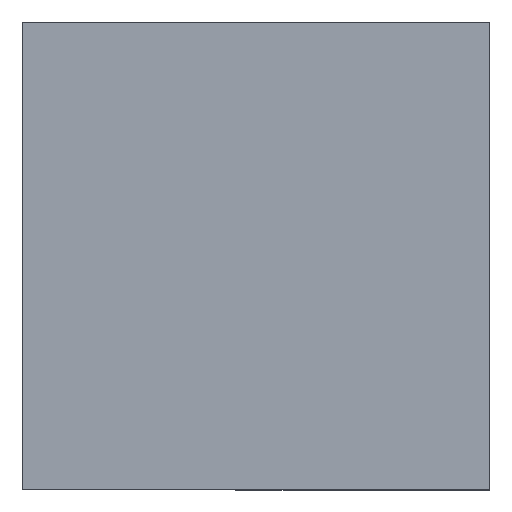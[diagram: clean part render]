
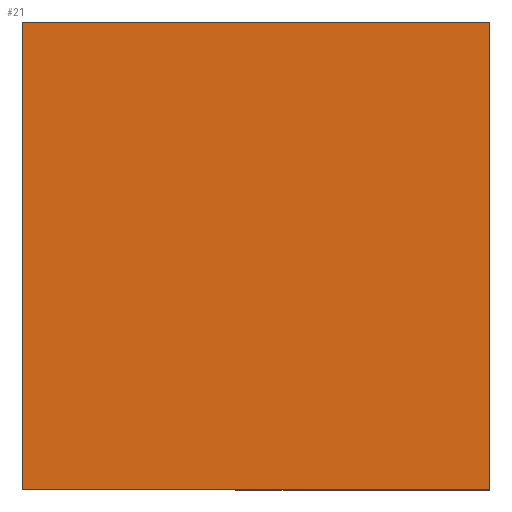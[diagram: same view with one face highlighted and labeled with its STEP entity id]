
A CAD part, top view. The second image highlights one B-rep face of the part: STEP entity #21.
In plain terms, the highlighted planar face has unit normal (0, 0, 1).
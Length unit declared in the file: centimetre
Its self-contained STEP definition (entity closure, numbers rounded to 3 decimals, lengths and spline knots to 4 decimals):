
#8 = LINE ( 'NONE', #134, #266 ) ;
#11 = EDGE_LOOP ( 'NONE', ( #35, #273, #281, #256 ) ) ;
#21 = ADVANCED_FACE ( 'NONE', ( #295 ), #64, .T. ) ;
#35 = ORIENTED_EDGE ( 'NONE', *, *, #296, .T. ) ;
#44 = VECTOR ( 'NONE', #393, 100. ) ;
#49 = CARTESIAN_POINT ( 'NONE',  ( 0., 1000., 1000. ) ) ;
#53 = AXIS2_PLACEMENT_3D ( 'NONE', #207, #180, #61 ) ;
#61 = DIRECTION ( 'NONE',  ( 1., 0., 0. ) ) ;
#64 = PLANE ( 'NONE',  #53 ) ;
#67 = VERTEX_POINT ( 'NONE', #325 ) ;
#72 = DIRECTION ( 'NONE',  ( 1., 0., 0. ) ) ;
#81 = CARTESIAN_POINT ( 'NONE',  ( 0., 1000., 1000. ) ) ;
#85 = CARTESIAN_POINT ( 'NONE',  ( 1000., 1000., 1000. ) ) ;
#93 = VERTEX_POINT ( 'NONE', #247 ) ;
#134 = CARTESIAN_POINT ( 'NONE',  ( 0., 0., 1000. ) ) ;
#180 = DIRECTION ( 'NONE',  ( 0., 0., 1. ) ) ;
#193 = CARTESIAN_POINT ( 'NONE',  ( 0., 0., 1000. ) ) ;
#198 = LINE ( 'NONE', #85, #299 ) ;
#207 = CARTESIAN_POINT ( 'NONE',  ( 0., 0., 1000. ) ) ;
#210 = VECTOR ( 'NONE', #259, 100. ) ;
#247 = CARTESIAN_POINT ( 'NONE',  ( 1000., 1000., 1000. ) ) ;
#256 = ORIENTED_EDGE ( 'NONE', *, *, #275, .T. ) ;
#258 = VERTEX_POINT ( 'NONE', #81 ) ;
#259 = DIRECTION ( 'NONE',  ( -1., 0., 0. ) ) ;
#263 = CARTESIAN_POINT ( 'NONE',  ( 0., 1000., 1000. ) ) ;
#264 = LINE ( 'NONE', #49, #210 ) ;
#266 = VECTOR ( 'NONE', #72, 100. ) ;
#273 = ORIENTED_EDGE ( 'NONE', *, *, #397, .T. ) ;
#275 = EDGE_CURVE ( 'NONE', #93, #258, #264, .T. ) ;
#281 = ORIENTED_EDGE ( 'NONE', *, *, #376, .T. ) ;
#285 = VERTEX_POINT ( 'NONE', #193 ) ;
#295 = FACE_OUTER_BOUND ( 'NONE', #11, .T. ) ;
#296 = EDGE_CURVE ( 'NONE', #258, #285, #311, .T. ) ;
#299 = VECTOR ( 'NONE', #318, 100. ) ;
#311 = LINE ( 'NONE', #263, #44 ) ;
#318 = DIRECTION ( 'NONE',  ( 0., 1., 0. ) ) ;
#325 = CARTESIAN_POINT ( 'NONE',  ( 1000., 0., 1000. ) ) ;
#376 = EDGE_CURVE ( 'NONE', #67, #93, #198, .T. ) ;
#393 = DIRECTION ( 'NONE',  ( 0., -1., 0. ) ) ;
#397 = EDGE_CURVE ( 'NONE', #285, #67, #8, .T. ) ;
